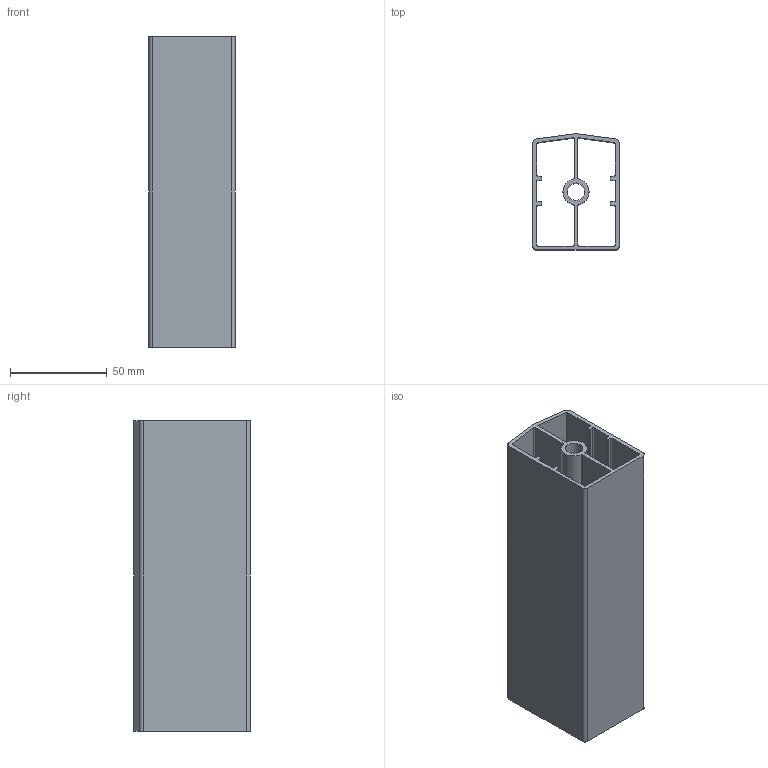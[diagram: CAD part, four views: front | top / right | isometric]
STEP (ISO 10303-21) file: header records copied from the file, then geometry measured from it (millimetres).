
FILE_DESCRIPTION (( 'STEP AP214' ), '1' );
FILE_NAME ('FGRN 3U.step', '2017-04-05T07:43:38', ( '' ), ( '' ), 'SwSTEP 2.0', 'SolidWorks 2015', '' );
FILE_SCHEMA (( 'AUTOMOTIVE_DESIGN' ));
Length unit declared in the file: millimetre
Products named in the file (1): FGRN 3U
Bounding box: 44.5 x 59.98 x 160 mm (x, y, z)
Volume: 91724.1 mm3; surface area: 89213.9 mm2
Topology: 1 solids, 1 shells, 70 faces, 204 edges, 136 vertices
Faces by surface type: cylinder 37, plane 33
Entity records: 2388 total; most frequent: DIRECTION 420, CARTESIAN_POINT 411, ORIENTED_EDGE 408, EDGE_CURVE 204, AXIS2_PLACEMENT_3D 145, VERTEX_POINT 136, LINE 130, VECTOR 130
